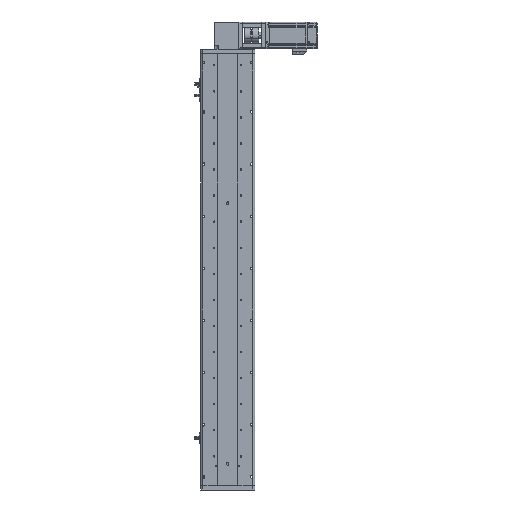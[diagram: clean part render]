
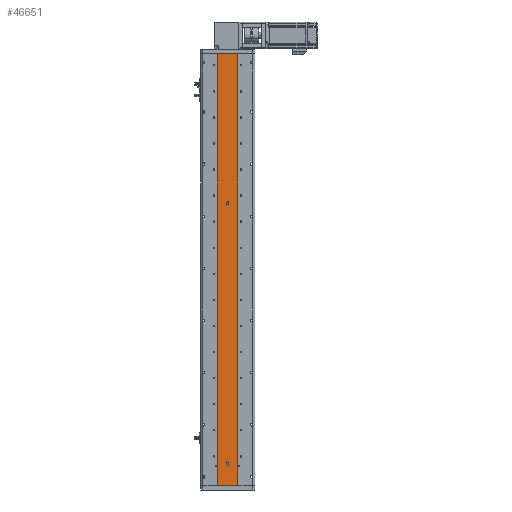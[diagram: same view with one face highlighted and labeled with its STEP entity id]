
A CAD part, front view. The second image highlights one B-rep face of the part: STEP entity #46651.
In plain terms, the highlighted planar face has unit normal (0, -1, 0).
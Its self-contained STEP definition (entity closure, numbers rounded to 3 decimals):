
#840 = EDGE_CURVE ( 'NONE', #3129, #14766, #51351, .T. ) ;
#1597 = FACE_BOUND ( 'NONE', #50809, .T. ) ;
#1675 = EDGE_CURVE ( 'NONE', #21428, #14766, #16791, .T. ) ;
#3098 = FACE_OUTER_BOUND ( 'NONE', #21387, .T. ) ;
#3129 = VERTEX_POINT ( 'NONE', #30468 ) ;
#3170 = EDGE_CURVE ( 'NONE', #19744, #21428, #55256, .T. ) ;
#3712 = CARTESIAN_POINT ( 'NONE',  ( 0., 1., -444. ) ) ;
#4946 = LINE ( 'NONE', #58360, #28867 ) ;
#5371 = CARTESIAN_POINT ( 'NONE',  ( 0., 1., 156. ) ) ;
#5895 = CARTESIAN_POINT ( 'NONE',  ( 0., 1., -447. ) ) ;
#6102 = ORIENTED_EDGE ( 'NONE', *, *, #12618, .F. ) ;
#10335 = DIRECTION ( 'NONE',  ( 0., 0., 1. ) ) ;
#10404 = EDGE_CURVE ( 'NONE', #14049, #46689, #24832, .T. ) ;
#10687 = DIRECTION ( 'NONE',  ( 0., 0., -1. ) ) ;
#10769 = EDGE_LOOP ( 'NONE', ( #19454, #25423 ) ) ;
#11171 = CARTESIAN_POINT ( 'NONE',  ( 0., 1., 153. ) ) ;
#12618 = EDGE_CURVE ( 'NONE', #19744, #3129, #4946, .T. ) ;
#12733 = CARTESIAN_POINT ( 'NONE',  ( 0., 1., 153. ) ) ;
#14049 = VERTEX_POINT ( 'NONE', #5371 ) ;
#14348 = ORIENTED_EDGE ( 'NONE', *, *, #840, .F. ) ;
#14766 = VERTEX_POINT ( 'NONE', #44945 ) ;
#15968 = DIRECTION ( 'NONE',  ( 0., 0., -1. ) ) ;
#16791 = LINE ( 'NONE', #25337, #42172 ) ;
#17433 = CARTESIAN_POINT ( 'NONE',  ( 0., 1., -447. ) ) ;
#17525 = DIRECTION ( 'NONE',  ( 0., 0., -1. ) ) ;
#17527 = AXIS2_PLACEMENT_3D ( 'NONE', #17433, #50864, #22246 ) ;
#18715 = AXIS2_PLACEMENT_3D ( 'NONE', #11171, #44580, #15968 ) ;
#19454 = ORIENTED_EDGE ( 'NONE', *, *, #59437, .F. ) ;
#19718 = PLANE ( 'NONE',  #43358 ) ;
#19744 = VERTEX_POINT ( 'NONE', #20640 ) ;
#20640 = CARTESIAN_POINT ( 'NONE',  ( -23., 1., 497. ) ) ;
#21387 = EDGE_LOOP ( 'NONE', ( #48614, #23256, #14348, #6102 ) ) ;
#21428 = VERTEX_POINT ( 'NONE', #47597 ) ;
#22246 = DIRECTION ( 'NONE',  ( 0., 0., -1. ) ) ;
#23256 = ORIENTED_EDGE ( 'NONE', *, *, #1675, .T. ) ;
#24115 = CIRCLE ( 'NONE', #17527, 3. ) ;
#24565 = CARTESIAN_POINT ( 'NONE',  ( 23., 1., 497.001 ) ) ;
#24832 = CIRCLE ( 'NONE', #37734, 3. ) ;
#25337 = CARTESIAN_POINT ( 'NONE',  ( 23., 1., -497. ) ) ;
#25423 = ORIENTED_EDGE ( 'NONE', *, *, #10404, .F. ) ;
#25831 = CARTESIAN_POINT ( 'NONE',  ( 23., 1., 497.001 ) ) ;
#25897 = DIRECTION ( 'NONE',  ( 0., 0., -1. ) ) ;
#28025 = VERTEX_POINT ( 'NONE', #49127 ) ;
#28867 = VECTOR ( 'NONE', #53518, 1000. ) ;
#30468 = CARTESIAN_POINT ( 'NONE',  ( 23., 1., 497. ) ) ;
#30681 = CARTESIAN_POINT ( 'NONE',  ( -23., 1., 497.001 ) ) ;
#31510 = ORIENTED_EDGE ( 'NONE', *, *, #59623, .F. ) ;
#31808 = VERTEX_POINT ( 'NONE', #3712 ) ;
#32123 = AXIS2_PLACEMENT_3D ( 'NONE', #5895, #39294, #10687 ) ;
#34251 = ORIENTED_EDGE ( 'NONE', *, *, #52658, .F. ) ;
#37734 = AXIS2_PLACEMENT_3D ( 'NONE', #12733, #46107, #17525 ) ;
#38938 = DIRECTION ( 'NONE',  ( 0., 1., 0. ) ) ;
#39294 = DIRECTION ( 'NONE',  ( 0., -1., 0. ) ) ;
#41064 = VECTOR ( 'NONE', #25897, 1000. ) ;
#42172 = VECTOR ( 'NONE', #58759, 1000. ) ;
#43358 = AXIS2_PLACEMENT_3D ( 'NONE', #24565, #38938, #10335 ) ;
#44580 = DIRECTION ( 'NONE',  ( 0., -1., 0. ) ) ;
#44945 = CARTESIAN_POINT ( 'NONE',  ( 23., 1., -497. ) ) ;
#46107 = DIRECTION ( 'NONE',  ( 0., -1., 0. ) ) ;
#46651 = ADVANCED_FACE ( 'NONE', ( #52411, #1597, #3098 ), #19718, .F. ) ;
#46689 = VERTEX_POINT ( 'NONE', #48532 ) ;
#47069 = CIRCLE ( 'NONE', #32123, 3. ) ;
#47597 = CARTESIAN_POINT ( 'NONE',  ( -23., 1., -497. ) ) ;
#48532 = CARTESIAN_POINT ( 'NONE',  ( 0., 1., 150. ) ) ;
#48614 = ORIENTED_EDGE ( 'NONE', *, *, #3170, .T. ) ;
#49127 = CARTESIAN_POINT ( 'NONE',  ( 0., 1., -450. ) ) ;
#49865 = VECTOR ( 'NONE', #54438, 1000. ) ;
#50809 = EDGE_LOOP ( 'NONE', ( #34251, #31510 ) ) ;
#50864 = DIRECTION ( 'NONE',  ( 0., -1., 0. ) ) ;
#51351 = LINE ( 'NONE', #25831, #49865 ) ;
#52411 = FACE_BOUND ( 'NONE', #10769, .T. ) ;
#52658 = EDGE_CURVE ( 'NONE', #28025, #31808, #47069, .T. ) ;
#53518 = DIRECTION ( 'NONE',  ( 1., 0., 0. ) ) ;
#54438 = DIRECTION ( 'NONE',  ( 0., 0., -1. ) ) ;
#55256 = LINE ( 'NONE', #30681, #41064 ) ;
#58360 = CARTESIAN_POINT ( 'NONE',  ( 23., 1., 497. ) ) ;
#58759 = DIRECTION ( 'NONE',  ( 1., 0., 0. ) ) ;
#59437 = EDGE_CURVE ( 'NONE', #46689, #14049, #60063, .T. ) ;
#59623 = EDGE_CURVE ( 'NONE', #31808, #28025, #24115, .T. ) ;
#60063 = CIRCLE ( 'NONE', #18715, 3. ) ;
